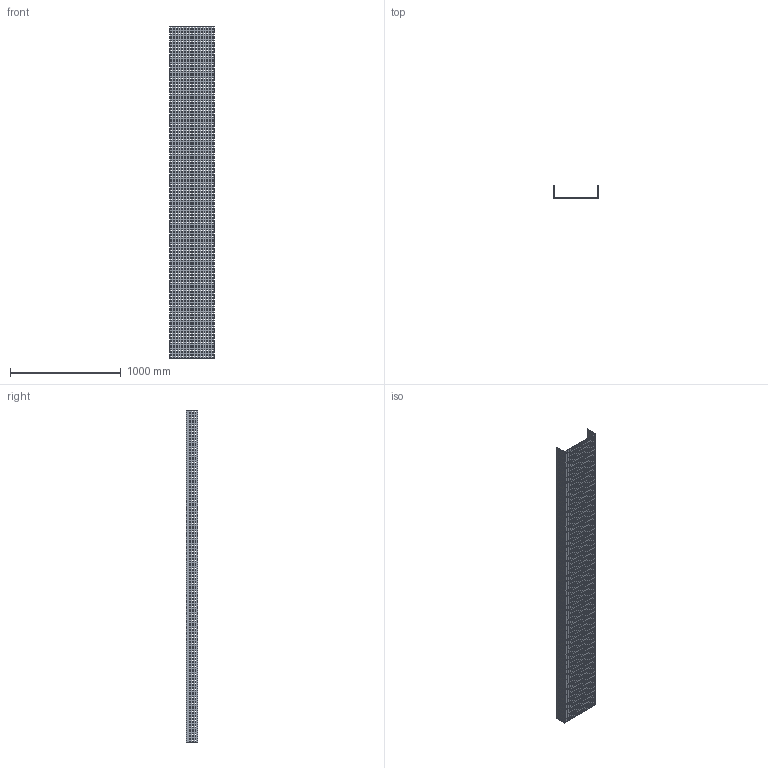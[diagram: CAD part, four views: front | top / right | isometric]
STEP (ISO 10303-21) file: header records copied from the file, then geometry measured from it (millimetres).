
FILE_DESCRIPTION (( 'STEP AP214' ), '1' );
FILE_NAME ('01B3D400.step', '2025-02-21T10:01:33', ( '' ), ( '' ), 'SwSTEP 2.0', 'SolidWorks 2023', '' );
FILE_SCHEMA (( 'AUTOMOTIVE_DESIGN' ));
Length unit declared in the file: millimetre
Products named in the file (1): 01B3D400
Bounding box: 404 x 104 x 3000 mm (x, y, z)
Volume: 5382300 mm3; surface area: 3455651 mm2
Topology: 1 solids, 1 shells, 6346 faces, 19032 edges, 12688 vertices
Faces by surface type: plane 6346
Entity records: 215735 total; most frequent: CARTESIAN_POINT 38067, ORIENTED_EDGE 38064, DIRECTION 31726, EDGE_CURVE 19032, LINE 19032, VECTOR 19032, VERTEX_POINT 12688, EDGE_LOOP 9514
